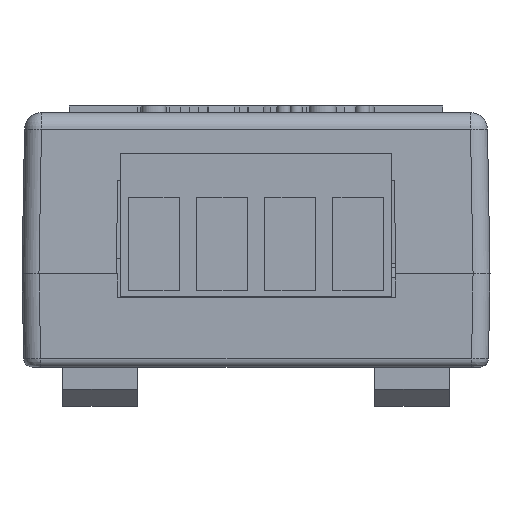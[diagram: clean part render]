
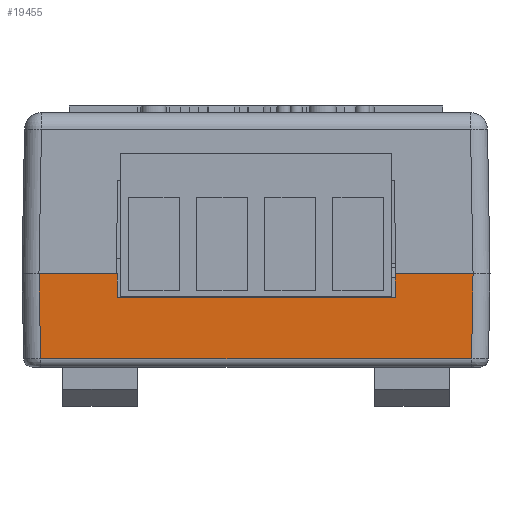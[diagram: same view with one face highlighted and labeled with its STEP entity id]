
A CAD part, front view. The second image highlights one B-rep face of the part: STEP entity #19455.
In plain terms, the highlighted planar face has unit normal (0, -1, -0.018).
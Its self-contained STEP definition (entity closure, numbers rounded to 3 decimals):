
#1165=ORIENTED_EDGE('',*,*,#6769,.F.);
#1166=ORIENTED_EDGE('',*,*,#6744,.F.);
#1167=ORIENTED_EDGE('',*,*,#6770,.T.);
#1168=ORIENTED_EDGE('',*,*,#6771,.T.);
#1169=ORIENTED_EDGE('',*,*,#6772,.T.);
#1170=ORIENTED_EDGE('',*,*,#6753,.F.);
#1171=ORIENTED_EDGE('',*,*,#6773,.F.);
#1172=ORIENTED_EDGE('',*,*,#6774,.T.);
#6744=EDGE_CURVE('',#9544,#9538,#11438,.T.);
#6753=EDGE_CURVE('',#9551,#9553,#11447,.T.);
#6769=EDGE_CURVE('',#9538,#9565,#11461,.T.);
#6770=EDGE_CURVE('',#9544,#9566,#11462,.F.);
#6771=EDGE_CURVE('',#9566,#9567,#11463,.T.);
#6772=EDGE_CURVE('',#9567,#9553,#11464,.T.);
#6773=EDGE_CURVE('',#9568,#9551,#11465,.T.);
#6774=EDGE_CURVE('',#9568,#9565,#11466,.T.);
#9538=VERTEX_POINT('',#26962);
#9544=VERTEX_POINT('',#26974);
#9551=VERTEX_POINT('',#26992);
#9553=VERTEX_POINT('',#26995);
#9565=VERTEX_POINT('',#27026);
#9566=VERTEX_POINT('',#27028);
#9567=VERTEX_POINT('',#27030);
#9568=VERTEX_POINT('',#27033);
#11438=LINE('',#26975,#13599);
#11447=LINE('',#26994,#13608);
#11461=LINE('',#27025,#13622);
#11462=LINE('',#27027,#13623);
#11463=LINE('',#27029,#13624);
#11464=LINE('',#27031,#13625);
#11465=LINE('',#27032,#13626);
#11466=LINE('',#27034,#13627);
#13599=VECTOR('',#22131,1000.);
#13608=VECTOR('',#22144,1000.);
#13622=VECTOR('',#22168,1000.);
#13623=VECTOR('',#22169,1000.);
#13624=VECTOR('',#22170,1000.);
#13625=VECTOR('',#22171,1000.);
#13626=VECTOR('',#22172,1000.);
#13627=VECTOR('',#22173,1000.);
#15689=EDGE_LOOP('',(#1165,#1166,#1167,#1168,#1169,#1170,#1171,#1172));
#17147=FACE_BOUND('',#15689,.T.);
#18601=PLANE('',#20725);
#19455=ADVANCED_FACE('',(#17147),#18601,.T.);
#20725=AXIS2_PLACEMENT_3D('',#27024,#22166,#22167);
#22131=DIRECTION('',(1.,0.,0.));
#22144=DIRECTION('',(1.,0.,0.));
#22166=DIRECTION('',(0.,-1.,-0.017));
#22167=DIRECTION('',(0.,0.017,-1.));
#22168=DIRECTION('',(0.,0.017,-1.));
#22169=DIRECTION('',(-0.017,-0.017,1.));
#22170=DIRECTION('',(1.,0.,0.));
#22171=DIRECTION('',(0.017,-0.017,1.));
#22172=DIRECTION('',(0.,-0.017,1.));
#22173=DIRECTION('',(-1.,0.,0.));
#26962=CARTESIAN_POINT('',(-10.414,-35.936,0.));
#26974=CARTESIAN_POINT('',(-16.251,-35.936,0.));
#26975=CARTESIAN_POINT('',(-17.399,-35.936,0.));
#26992=CARTESIAN_POINT('',(10.414,-35.936,0.));
#26994=CARTESIAN_POINT('',(-17.399,-35.936,0.));
#26995=CARTESIAN_POINT('',(16.251,-35.936,0.));
#27024=CARTESIAN_POINT('',(0.,-35.814,-6.985));
#27025=CARTESIAN_POINT('',(-10.414,-35.814,-6.985));
#27026=CARTESIAN_POINT('',(-10.414,-35.905,-1.778));
#27027=CARTESIAN_POINT('',(-16.124,-35.809,-7.266));
#27028=CARTESIAN_POINT('',(-16.14,-35.825,-6.361));
#27029=CARTESIAN_POINT('',(16.129,-35.825,-6.361));
#27030=CARTESIAN_POINT('',(16.14,-35.825,-6.361));
#27031=CARTESIAN_POINT('',(16.124,-35.809,-7.266));
#27032=CARTESIAN_POINT('',(10.414,-35.814,-6.985));
#27033=CARTESIAN_POINT('',(10.414,-35.905,-1.778));
#27034=CARTESIAN_POINT('',(0.,-35.905,-1.778));
